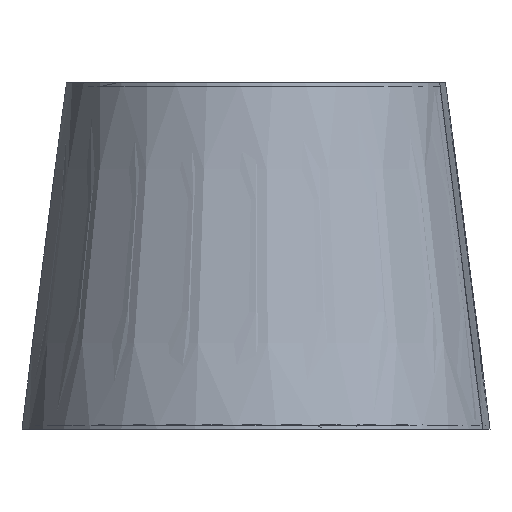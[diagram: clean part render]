
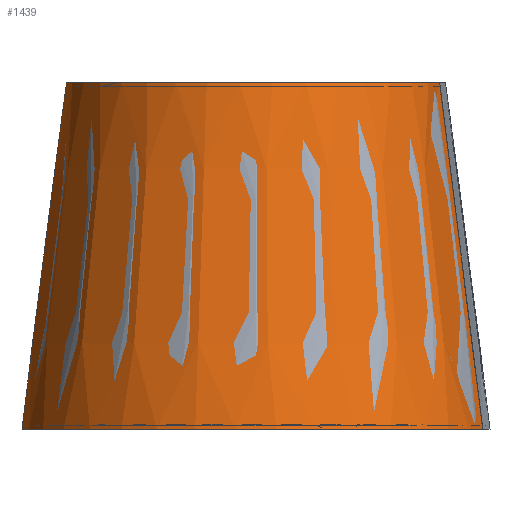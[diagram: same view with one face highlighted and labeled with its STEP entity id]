
A CAD part, front view. The second image highlights one B-rep face of the part: STEP entity #1439.
In plain terms, the highlighted conical face has half-angle 7.352 degrees and reference radius 39.006 mm.
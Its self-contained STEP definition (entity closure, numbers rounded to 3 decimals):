
#18=CONICAL_SURFACE('',#1558,39.006,0.128);
#201=FACE_OUTER_BOUND('',#286,.T.);
#286=EDGE_LOOP('',(#1199,#1200,#1201,#1202));
#333=CIRCLE('',#1490,210.);
#362=CIRCLE('',#1559,170.);
#463=LINE('',#2967,#569);
#464=LINE('',#2970,#570);
#569=VECTOR('',#1864,1.);
#570=VECTOR('',#1867,1.);
#599=VERTEX_POINT('',#2013);
#600=VERTEX_POINT('',#2014);
#707=VERTEX_POINT('',#2966);
#708=VERTEX_POINT('',#2968);
#747=EDGE_CURVE('',#599,#600,#333,.T.);
#896=EDGE_CURVE('',#707,#600,#463,.T.);
#897=EDGE_CURVE('',#708,#707,#362,.T.);
#898=EDGE_CURVE('',#599,#708,#464,.T.);
#1199=ORIENTED_EDGE('',*,*,#896,.F.);
#1200=ORIENTED_EDGE('',*,*,#897,.F.);
#1201=ORIENTED_EDGE('',*,*,#898,.F.);
#1202=ORIENTED_EDGE('',*,*,#747,.T.);
#1439=ADVANCED_FACE('',(#201),#18,.T.);
#1490=AXIS2_PLACEMENT_3D('',#2015,#1646,#1647);
#1558=AXIS2_PLACEMENT_3D('',#2965,#1862,#1863);
#1559=AXIS2_PLACEMENT_3D('',#2969,#1865,#1866);
#1646=DIRECTION('center_axis',(0.,0.,
1.));
#1647=DIRECTION('ref_axis',(0.966,-0.259,0.));
#1862=DIRECTION('center_axis',(0.,0.,
-1.));
#1863=DIRECTION('ref_axis',(0.966,-0.259,0.));
#1864=DIRECTION('',(0.124,-0.033,-0.992));
#1865=DIRECTION('center_axis',(0.,0.,
1.));
#1866=DIRECTION('ref_axis',(0.966,-0.259,0.));
#1867=DIRECTION('',(0.124,-0.033,0.992));
#2013=CARTESIAN_POINT('',(-202.844,54.352,0.));
#2014=CARTESIAN_POINT('',(202.844,-54.352,0.));
#2015=CARTESIAN_POINT('Origin',(0.,0.,
0.));
#2965=CARTESIAN_POINT('Origin',(0.,0.,
1325.206));
#2966=CARTESIAN_POINT('',(164.207,-43.999,310.));
#2967=CARTESIAN_POINT('',(164.207,-43.999,310.));
#2968=CARTESIAN_POINT('',(-164.207,43.999,310.));
#2969=CARTESIAN_POINT('Origin',(0.,0.,
310.));
#2970=CARTESIAN_POINT('',(-202.844,54.352,0.));
